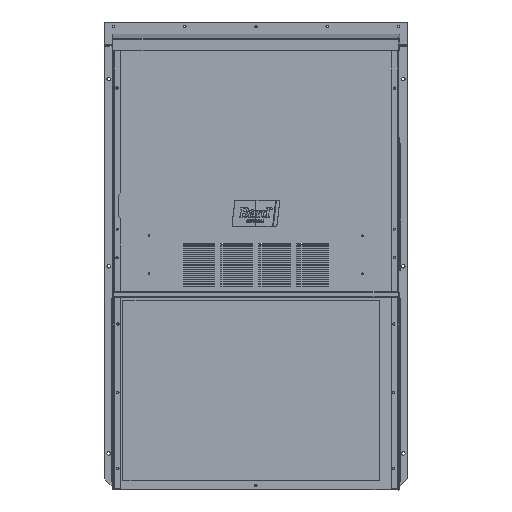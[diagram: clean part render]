
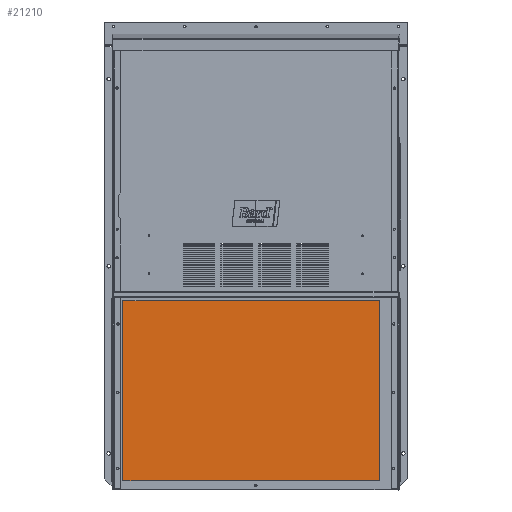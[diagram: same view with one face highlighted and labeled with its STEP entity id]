
A CAD part, top view. The second image highlights one B-rep face of the part: STEP entity #21210.
In plain terms, the highlighted planar face has unit normal (0, 0, 1).
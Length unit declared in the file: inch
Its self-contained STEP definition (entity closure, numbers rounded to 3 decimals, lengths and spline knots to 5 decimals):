
#1424 = DIRECTION ( 'NONE',  ( -1., 0., 0. ) ) ;
#1463 = CARTESIAN_POINT ( 'NONE',  ( -28.94083, 17.82613, 0.13475 ) ) ;
#1792 = VERTEX_POINT ( 'NONE', #36243 ) ;
#3979 = VERTEX_POINT ( 'NONE', #35010 ) ;
#4343 = FACE_OUTER_BOUND ( 'NONE', #38796, .T. ) ;
#4761 = VERTEX_POINT ( 'NONE', #23101 ) ;
#6115 = VECTOR ( 'NONE', #23771, 39.37008 ) ;
#6463 = CARTESIAN_POINT ( 'NONE',  ( -28.94083, 17.82613, 0.13475 ) ) ;
#7324 = VECTOR ( 'NONE', #21410, 39.37008 ) ;
#8000 = VERTEX_POINT ( 'NONE', #6463 ) ;
#9498 = EDGE_CURVE ( 'NONE', #3979, #8000, #31946, .T. ) ;
#13093 = ORIENTED_EDGE ( 'NONE', *, *, #9498, .T. ) ;
#13183 = LINE ( 'NONE', #14420, #37435 ) ;
#14248 = LINE ( 'NONE', #24202, #6115 ) ;
#14420 = CARTESIAN_POINT ( 'NONE',  ( -28.94034, -1.17416, 0.13475 ) ) ;
#15429 = EDGE_CURVE ( 'NONE', #1792, #3979, #14248, .T. ) ;
#15895 = AXIS2_PLACEMENT_3D ( 'NONE', #39161, #36178, #18025 ) ;
#16386 = LINE ( 'NONE', #21491, #7324 ) ;
#18025 = DIRECTION ( 'NONE',  ( 0., -1., 0. ) ) ;
#19394 = EDGE_CURVE ( 'NONE', #8000, #4761, #16386, .T. ) ;
#20389 = ORIENTED_EDGE ( 'NONE', *, *, #15429, .T. ) ;
#21210 = ADVANCED_FACE ( 'NONE', ( #4343 ), #30078, .F. ) ;
#21410 = DIRECTION ( 'NONE',  ( 0., -1., 0. ) ) ;
#21491 = CARTESIAN_POINT ( 'NONE',  ( -28.94083, 17.82613, 0.13475 ) ) ;
#22732 = ORIENTED_EDGE ( 'NONE', *, *, #19394, .T. ) ;
#23101 = CARTESIAN_POINT ( 'NONE',  ( -28.94034, -1.17416, 0.13475 ) ) ;
#23771 = DIRECTION ( 'NONE',  ( 0., 1., 0. ) ) ;
#24202 = CARTESIAN_POINT ( 'NONE',  ( -1.94033, 17.82683, 0.13475 ) ) ;
#24808 = VECTOR ( 'NONE', #1424, 39.37008 ) ;
#25212 = EDGE_CURVE ( 'NONE', #4761, #1792, #13183, .T. ) ;
#25835 = ORIENTED_EDGE ( 'NONE', *, *, #25212, .T. ) ;
#30078 = PLANE ( 'NONE',  #15895 ) ;
#31946 = LINE ( 'NONE', #1463, #24808 ) ;
#35010 = CARTESIAN_POINT ( 'NONE',  ( -1.94033, 17.82683, 0.13475 ) ) ;
#36178 = DIRECTION ( 'NONE',  ( 0., 0., -1. ) ) ;
#36243 = CARTESIAN_POINT ( 'NONE',  ( -1.93984, -1.17345, 0.13475 ) ) ;
#37435 = VECTOR ( 'NONE', #38621, 39.37008 ) ;
#38621 = DIRECTION ( 'NONE',  ( 1., 0., 0. ) ) ;
#38796 = EDGE_LOOP ( 'NONE', ( #13093, #22732, #25835, #20389 ) ) ;
#39161 = CARTESIAN_POINT ( 'NONE',  ( 46.27808, 29.89533, 0.13475 ) ) ;
